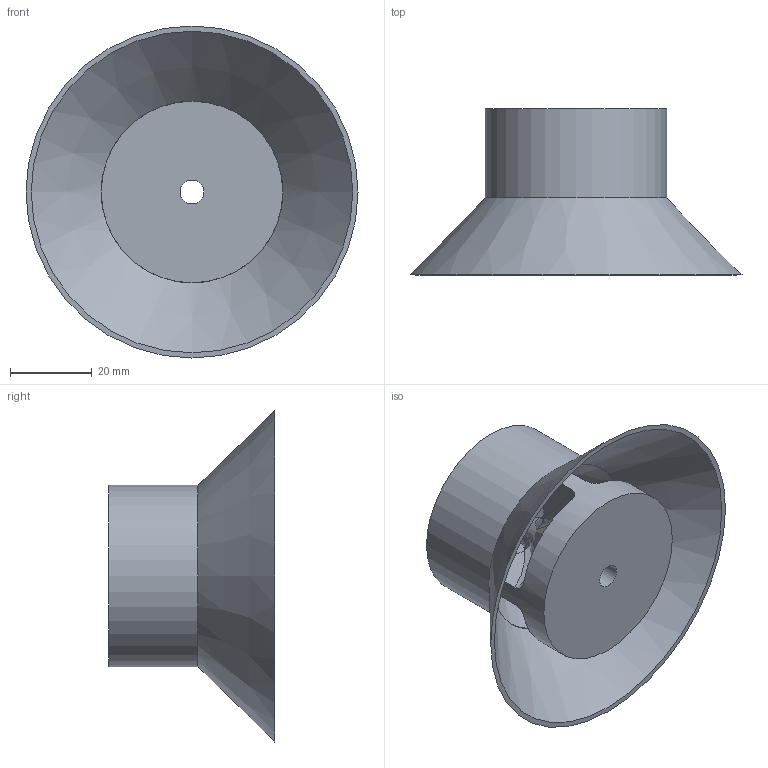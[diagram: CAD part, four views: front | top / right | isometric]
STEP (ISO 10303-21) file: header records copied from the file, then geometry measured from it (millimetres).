
FILE_DESCRIPTION(/* description */ (''),/* implementation_level */ '2;1');
FILE_NAME(/* name */ 'C:/Users/Owner/Desktop/KCAD 3Dp Fuel Filter Baffles Gen1/STEP Versions/1.75DIAx1.6 High Baffles STEP/1.75 Dia 23 CAL Baffle STEP.step',/* time_stamp */ '2019-06-09T15:57:52-04:00',/* author */ (''),/* organization */ (''),/* preprocessor_version */ 'ST-DEVELOPER v18',/* originating_system */ 'Autodesk Translation Framework v8.2.0.1029',/* authorisation */ '');
FILE_SCHEMA (('AUTOMOTIVE_DESIGN { 1 0 10303 214 3 1 1 }'));
Length unit declared in the file: inch
Products named in the file (1): baf 1.75 dia 1.6 high 23 cal
Bounding box: 81.28 x 40.64 x 81.28 mm (x, y, z)
Volume: 50526.3 mm3; surface area: 22997.1 mm2
Topology: 1 solids, 1 shells, 36 faces, 133 edges, 92 vertices
Faces by surface type: bspline 13, plane 11, cylinder 8, cone 2, torus 2
Full cylindrical faces by diameter (mm): 5.842 x2, 44.45 x2
Entity records: 2603 total; most frequent: CARTESIAN_POINT 1576, ORIENTED_EDGE 266, DIRECTION 142, EDGE_CURVE 133, VERTEX_POINT 92, B_SPLINE_CURVE_WITH_KNOTS 66, AXIS2_PLACEMENT_3D 60, EDGE_LOOP 39
